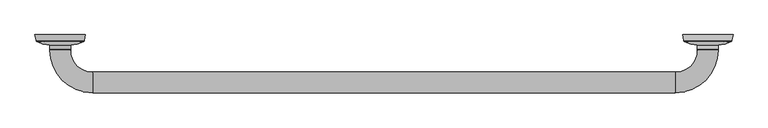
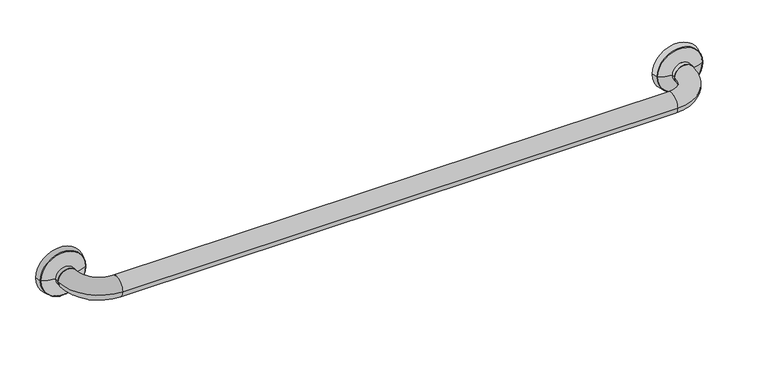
"""IFC4 building model written with IfcOpenShell, lengths in millimetres: proxy geometry, Grab Rail_Metlam_Straight_Horizontal : 1032long x 90d x 32h (ML334_1SS)."""

from ifc_helpers import new_model, si_unit, point, frame, origin, place, context, project, spatial, polyline, circle_curve, ellipse_curve, trimmed, source, transform, mapped, element, save
from ifc_brep_helpers import plane_surface, cylinder_surface, revolved_surface, advanced_brep


def specialty_equipment_439356c4(model_context):
    return source(origin(), model_context, "Body", "AdvancedBrep", [
        advanced_brep(
        [(89.0, -58.0, 784.0), (55.0, -24.0, 784.0), (23.0, -24.0, 784.0), (89.0, -90.0, 784.0), (989.0, -90.0, 784.0), (989.0, -58.0, 784.0), (1055.0, -24.0, 784.0), (1023.0, -24.0, 784.0), (55.0, -23.0, 784.0), (23.0, -23.0, 784.0), (1055.0, -23.0, 784.0), (1023.0, -23.0, 784.0), (0.0, 0.0, 784.0), (78.0, 0.0, 784.0), (76.1870729, -9.0646354, 784.0), (1.8129271, -9.0646354, 784.0), (2.8615925, -10.4521085, 784.0), (75.1384075, -10.4521085, 784.0), (55.0, -16.0065539, 784.0), (23.0, -16.0065539, 784.0), (39.0, 0.0, 784.0), (1078.0, 0.0, 784.0), (1000.0, 0.0, 784.0), (1039.0, 0.0, 784.0), (1076.1870729, -9.0646354, 784.0), (1001.8129271, -9.0646354, 784.0), (1055.0, -16.0065539, 784.0), (1023.0, -16.0065539, 784.0), (1002.8615925, -10.4521085, 784.0), (1075.1384075, -10.4521085, 784.0)],
        [
            (0, 1, circle_curve(frame((89.0, -24.0, 784.0), z_axis=(0.0, 0.0, -1.0), x_axis=(-1.0, 0.0, 0.0)), 34.0)),
            (1, 2, circle_curve(frame((39.0, -24.0, 784.0), z_axis=(0.0, -1.0, 0.0), x_axis=(1.0, 0.0, 0.0)), 16.0)),
            (2, 3, circle_curve(frame((89.0, -24.0, 784.0), z_axis=(0.0, 0.0, 1.0), x_axis=(-1.0, 0.0, 0.0)), 66.0)),
            (3, 0, circle_curve(frame((89.0, -74.0, 784.0), z_axis=(-1.0, 1.6734122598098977e-12, 0.0), x_axis=(1.6734122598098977e-12, 1.0, 0.0)), 16.0)),
            (0, 3, circle_curve(frame((89.0, -74.0, 784.0), z_axis=(-1.0, 3.240381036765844e-12, 0.0), x_axis=(3.240381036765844e-12, 1.0, 0.0)), 16.0)),
            (2, 1, circle_curve(frame((39.0, -24.0, 784.0), z_axis=(0.0, -1.0, 0.0), x_axis=(1.0, 0.0, 0.0)), 16.0)),
            (3, 4),
            (4, 5, circle_curve(frame((989.0, -74.0, 784.0), z_axis=(-1.0, 0.0, 0.0), x_axis=(0.0, 1.0, 0.0)), 16.0)),
            (5, 0),
            (5, 4, circle_curve(frame((989.0, -74.0, 784.0), z_axis=(-1.0, 0.0, 0.0), x_axis=(0.0, 1.0, 0.0)), 16.0)),
            (4, 6, circle_curve(frame((989.0, -24.0, 784.0), z_axis=(0.0, 0.0, 1.0), x_axis=(0.0, -1.0, 0.0)), 66.0)),
            (6, 7, circle_curve(frame((1039.0, -24.0, 784.0), z_axis=(0.0, -1.0, 0.0), x_axis=(-1.0, 0.0, 0.0)), 16.0)),
            (7, 5, circle_curve(frame((989.0, -24.0, 784.0), z_axis=(0.0, 0.0, -1.0), x_axis=(0.0, -1.0, 0.0)), 34.0)),
            (7, 6, circle_curve(frame((1039.0, -24.0, 784.0), z_axis=(0.0, -1.0, 0.0), x_axis=(-1.0, 0.0, 0.0)), 16.0)),
            (1, 8),
            (8, 9, circle_curve(frame((39.0, -23.0, 784.0), z_axis=(0.0, -1.0, 0.0), x_axis=(1.0, 0.0, 0.0)), 16.0)),
            (9, 2),
            (9, 8, circle_curve(frame((39.0, -23.0, 784.0), z_axis=(0.0, -1.0, 0.0), x_axis=(1.0, 0.0, 0.0)), 16.0)),
            (6, 10),
            (10, 11, circle_curve(frame((1039.0, -23.0, 784.0), z_axis=(0.0, -1.0, 0.0), x_axis=(-1.0, 0.0, 0.0)), 16.0)),
            (11, 7),
            (11, 10, circle_curve(frame((1039.0, -23.0, 784.0), z_axis=(0.0, -1.0, 0.0), x_axis=(-1.0, 0.0, 0.0)), 16.0)),
            (12, 13, circle_curve(frame((39.0, 0.0, 784.0), z_axis=(0.0, -1.0, 0.0), x_axis=(1.0, 0.0, 0.0)), 39.0)),
            (13, 14),
            (14, 15, circle_curve(frame((39.0, -9.0646354, 784.0), z_axis=(0.0, 1.0, 0.0), x_axis=(1.0, 0.0, 0.0)), 37.1870729)),
            (15, 12),
            (13, 12, circle_curve(frame((39.0, 0.0, 784.0), z_axis=(0.0, -1.0, 0.0), x_axis=(1.0, 0.0, 0.0)), 39.0)),
            (15, 14, circle_curve(frame((39.0, -9.0646354, 784.0), z_axis=(0.0, 1.0, 0.0), x_axis=(1.0, 0.0, 0.0)), 37.1870729)),
            (16, 17, circle_curve(frame((39.0, -10.4521085, 784.0), z_axis=(0.0, -1.0, 0.0), x_axis=(1.0, 0.0, 0.0)), 36.1384075)),
            (17, 18, circle_curve(frame((51.6887092, 35.2834961, 784.0), z_axis=(0.0, 0.0, -1.0), x_axis=(-1.0, 0.0, 0.0)), 51.3968275)),
            (18, 19, circle_curve(frame((39.0, -16.0065539, 784.0), z_axis=(0.0, 1.0, 0.0), x_axis=(1.0, 0.0, 0.0)), 16.0)),
            (19, 16, circle_curve(frame((26.3112908, 35.2834961, 784.0), z_axis=(0.0, 0.0, -1.0), x_axis=(1.0, 0.0, 0.0)), 51.3968275)),
            (17, 16, circle_curve(frame((39.0, -10.4521085, 784.0), z_axis=(0.0, -1.0, 0.0), x_axis=(1.0, 0.0, 0.0)), 36.1384075)),
            (19, 18, circle_curve(frame((39.0, -16.0065539, 784.0), z_axis=(0.0, 1.0, 0.0), x_axis=(1.0, 0.0, 0.0)), 16.0)),
            (18, 8),
            (9, 19),
            (12, 20),
            (20, 13),
            (14, 17, circle_curve(frame((74.2259116, -8.6724031, 784.0), z_axis=(0.0, 0.0, -1.0), x_axis=(-1.0, 0.0, 0.0)), 2.0)),
            (16, 15, circle_curve(frame((3.7740884, -8.6724031, 784.0), z_axis=(0.0, 0.0, -1.0), x_axis=(1.0, 0.0, 0.0)), 2.0)),
            (21, 22, circle_curve(frame((1039.0, 0.0, 784.0), z_axis=(0.0, 1.0, 0.0), x_axis=(-1.0, 0.0, 0.0)), 39.0)),
            (22, 23),
            (23, 21),
            (22, 21, circle_curve(frame((1039.0, 0.0, 784.0), z_axis=(0.0, 1.0, 0.0), x_axis=(-1.0, 0.0, 0.0)), 39.0)),
            (21, 24),
            (24, 25, circle_curve(frame((1039.0, -9.0646354, 784.0), z_axis=(0.0, 1.0, 0.0), x_axis=(-1.0, 0.0, 0.0)), 37.1870729)),
            (25, 22),
            (25, 24, circle_curve(frame((1039.0, -9.0646354, 784.0), z_axis=(0.0, 1.0, 0.0), x_axis=(-1.0, 0.0, 0.0)), 37.1870729)),
            (26, 27, circle_curve(frame((1039.0, -16.0065539, 784.0), z_axis=(0.0, 1.0, 0.0), x_axis=(-1.0, 0.0, 0.0)), 16.0)),
            (27, 28, circle_curve(frame((1026.3112908, 35.2834961, 784.0), z_axis=(0.0, 0.0, -1.0), x_axis=(-1.0, 0.0, 0.0)), 51.3968275)),
            (28, 29, circle_curve(frame((1039.0, -10.4521085, 784.0), z_axis=(0.0, -1.0, 0.0), x_axis=(-1.0, 0.0, 0.0)), 36.1384075)),
            (29, 26, circle_curve(frame((1051.6887092, 35.2834961, 784.0), z_axis=(0.0, 0.0, -1.0), x_axis=(1.0, 0.0, 0.0)), 51.3968275)),
            (27, 26, circle_curve(frame((1039.0, -16.0065539, 784.0), z_axis=(0.0, 1.0, 0.0), x_axis=(-1.0, 0.0, 0.0)), 16.0)),
            (29, 28, circle_curve(frame((1039.0, -10.4521085, 784.0), z_axis=(0.0, -1.0, 0.0), x_axis=(-1.0, 0.0, 0.0)), 36.1384075)),
            (26, 10),
            (11, 27),
            (24, 29, circle_curve(frame((1074.2259116, -8.6724031, 784.0), z_axis=(0.0, 0.0, -1.0), x_axis=(1.0, 0.0, 0.0)), 2.0)),
            (28, 25, circle_curve(frame((1003.7740884, -8.6724031, 784.0), z_axis=(0.0, 0.0, -1.0), x_axis=(-1.0, 0.0, 0.0)), 2.0)),
        ],
        [
            revolved_surface(trimmed(ellipse_curve(frame((39.0, -24.0, 784.0), z_axis=(0.0, 1.0, 0.0), x_axis=(1.0, 0.0, 0.0)), 16.0, 16.0), [point((23.0, -24.0, 784.0))], [point((55.0, -24.0, 784.0))], True, "CARTESIAN"), (89.0, -24.0, 784.0), (0.0, 0.0, 1.0)),
            revolved_surface(trimmed(ellipse_curve(frame((39.0, -24.0, 784.0), z_axis=(0.0, 1.0, 0.0), x_axis=(1.0, 0.0, 0.0)), 16.0, 16.0), [point((55.0, -24.0, 784.0))], [point((23.0, -24.0, 784.0))], True, "CARTESIAN"), (89.0, -24.0, 784.0), (0.0, 0.0, 1.0)),
            cylinder_surface(frame((89.0, -74.0, 784.0), z_axis=(-1.0, 0.0, 0.0), x_axis=(0.0, 1.0, 0.0)), 16.0),
            revolved_surface(trimmed(ellipse_curve(frame((989.0, -74.0, 784.0), z_axis=(-1.0, 0.0, 0.0), x_axis=(0.0, 1.0, 0.0)), 16.0, 16.0), [point((989.0, -90.0, 784.0))], [point((989.0, -58.0, 784.0))], True, "CARTESIAN"), (989.0, -24.0, 784.0), (0.0, 0.0, 1.0)),
            revolved_surface(trimmed(ellipse_curve(frame((989.0, -74.0, 784.0), z_axis=(-1.0, 0.0, 0.0), x_axis=(0.0, 1.0, 0.0)), 16.0, 16.0), [point((989.0, -58.0, 784.0))], [point((989.0, -90.0, 784.0))], True, "CARTESIAN"), (989.0, -24.0, 784.0), (0.0, 0.0, 1.0)),
            cylinder_surface(frame((39.0, -23.0, 784.0), z_axis=(0.0, 1.0, 0.0), x_axis=(1.0, 0.0, 0.0)), 16.0),
            cylinder_surface(frame((1039.0, -24.0, 784.0), z_axis=(0.0, -1.0, 0.0), x_axis=(-1.0, 0.0, 0.0)), 16.0),
            revolved_surface(polyline([(76.1870729, -9.0646354, 784.0), (78.0, 0.0, 784.0)]), (39.0, -10.0, 784.0), (0.0, 1.0, 0.0)),
            revolved_surface(trimmed(ellipse_curve(frame((51.6887092, 35.2834961, 784.0), z_axis=(0.0, 0.0, 1.0), x_axis=(-1.0, 0.0, 0.0)), 51.3968275, 51.3968275), [point((55.0, -16.0065539, 784.0))], [point((75.1384075, -10.4521085, 784.0))], True, "CARTESIAN"), (39.0, -10.0, 784.0), (0.0, 1.0, 0.0)),
            cylinder_surface(frame((39.0, -10.0, 784.0), z_axis=(0.0, 1.0, 0.0), x_axis=(1.0, 0.0, 0.0)), 16.0),
            plane_surface(frame((39.0, 0.0, 784.0), z_axis=(0.0, 1.0, 0.0), x_axis=(1.0, 0.0, 0.0))),
            revolved_surface(trimmed(ellipse_curve(frame((74.2259116, -8.6724031, 784.0), z_axis=(0.0, 0.0, 1.0), x_axis=(-1.0, 0.0, 0.0)), 2.0, 2.0), [point((75.1384075, -10.4521085, 784.0))], [point((76.1870729, -9.0646354, 784.0))], True, "CARTESIAN"), (39.0, -10.0, 784.0), (0.0, 1.0, 0.0)),
            plane_surface(frame((1039.0, 0.0, 784.0), z_axis=(0.0, 1.0, 0.0), x_axis=(-1.0, 0.0, 0.0))),
            revolved_surface(polyline([(1000.0, 0.0, 784.0), (1001.8129271, -9.0646354, 784.0)]), (1039.0, -10.0, 784.0), (0.0, -1.0, 0.0)),
            revolved_surface(trimmed(ellipse_curve(frame((1026.3112908, 35.2834961, 784.0), z_axis=(0.0, 0.0, 1.0), x_axis=(-1.0, 0.0, 0.0)), 51.3968275, 51.3968275), [point((1002.8615925, -10.4521085, 784.0))], [point((1023.0, -16.0065539, 784.0))], True, "CARTESIAN"), (1039.0, -10.0, 784.0), (0.0, -1.0, 0.0)),
            cylinder_surface(frame((1039.0, -10.0, 784.0), z_axis=(0.0, -1.0, 0.0), x_axis=(-1.0, 0.0, 0.0)), 16.0),
            revolved_surface(trimmed(ellipse_curve(frame((1003.7740884, -8.6724031, 784.0), z_axis=(0.0, 0.0, 1.0), x_axis=(-1.0, 0.0, 0.0)), 2.0, 2.0), [point((1001.8129271, -9.0646354, 784.0))], [point((1002.8615925, -10.4521085, 784.0))], True, "CARTESIAN"), (1039.0, -10.0, 784.0), (0.0, -1.0, 0.0)),
        ],
        [
            (0, [[1, 2, 3, 4]]),
            (1, [[-1, 5, -3, 6]]),
            (2, [[-4, 7, 8, 9]]),
            (2, [[-5, -9, 10, -7]]),
            (3, [[-8, 11, 12, 13]]),
            (4, [[-10, -13, 14, -11]]),
            (5, [[-2, 15, 16, 17]]),
            (5, [[-6, -17, 18, -15]]),
            (6, [[-12, 19, 20, 21]]),
            (6, [[-14, -21, 22, -19]]),
            (7, [[23, 24, 25, 26]]),
            (7, [[-24, 27, -26, 28]]),
            (8, [[29, 30, 31, 32]]),
            (8, [[-30, 33, -32, 34]]),
            (9, [[-31, 35, -18, 36]]),
            (9, [[-34, -36, -16, -35]]),
            (10, [[-23, 37, 38]]),
            (10, [[-27, -38, -37]]),
            (11, [[-25, 39, -29, 40]]),
            (11, [[-28, -40, -33, -39]]),
            (12, [[41, 42, 43]]),
            (12, [[-42, 44, -43]]),
            (13, [[-41, 45, 46, 47]]),
            (13, [[-44, -47, 48, -45]]),
            (14, [[49, 50, 51, 52]]),
            (14, [[-50, 53, -52, 54]]),
            (15, [[-49, 55, -22, 56]]),
            (15, [[-53, -56, -20, -55]]),
            (16, [[-46, 57, -51, 58]]),
            (16, [[-48, -58, -54, -57]]),
        ],
    ),
    ])


if __name__ == "__main__":
    model = new_model("IFC4")
    model_context = context("Model", 3, world=origin())
    ifc_project = project(units=[si_unit("LENGTHUNIT", "METRE", prefix="MILLI")], contexts=[model_context])
    site = spatial("IfcSite", under=ifc_project)
    building = spatial("IfcBuilding", under=site)
    placement = place(None, origin())
    specialty_equipment_shape = specialty_equipment_439356c4(model_context)
    element("IfcBuildingElementProxy", 1, Name="Grab Rail_Metlam_Straight_Horizontal : 1032long x 90d x 32h (ML334_1SS)", ObjectType="Grab Rail_Metlam_Straight_Horizontal : 1032long x 90d x 32h (ML334_1SS)", at=placement, inside=building, context=model_context, shape_type="MappedRepresentation", body=[
        mapped(specialty_equipment_shape, transform((0.0, 0.0, 0.0), x_axis=(1.0, 0.0, 0.0), y_axis=(0.0, 1.0, 0.0), z_axis=(0.0, 0.0, 1.0))),
    ])
    save(model, "model.ifc")
